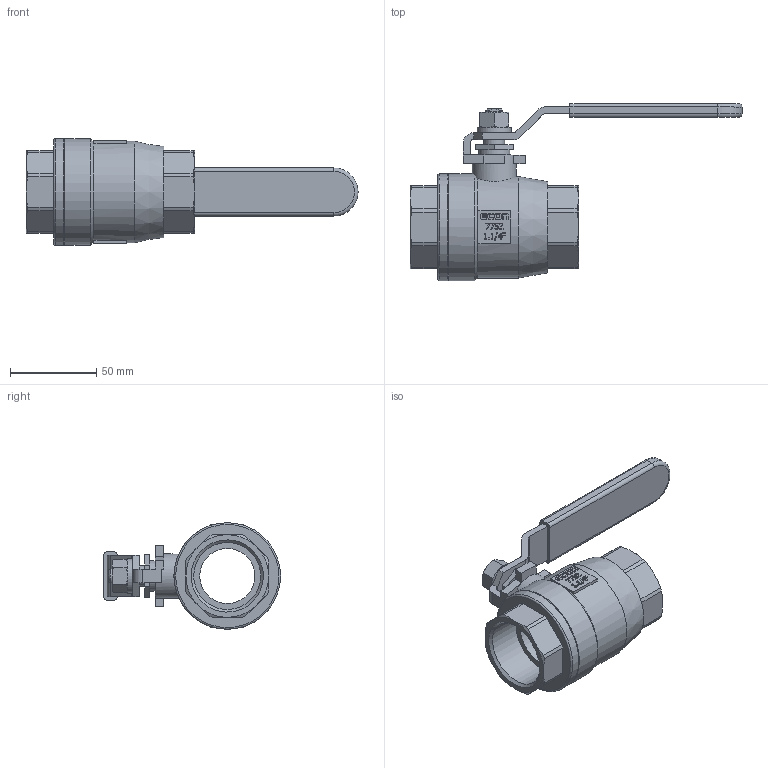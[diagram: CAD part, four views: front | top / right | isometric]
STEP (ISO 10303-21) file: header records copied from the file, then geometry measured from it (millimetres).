
FILE_DESCRIPTION(/* description */ ('Eriks item no: 12427454'),/* implementation_level */ '2;1');
FILE_NAME(/* name */ '7752-DN32-FB-1000PSI-BSPP.stp',/* time_stamp */ '2024-02-16T16:34:35+01:00',/* author */ ('roger.thijssen'),/* organization */ (''),/* preprocessor_version */ 'ST-DEVELOPER v19.2',/* originating_system */ 'Autodesk Inventor 2024',/* authorisation */ '');
FILE_SCHEMA (('AUTOMOTIVE_DESIGN { 1 0 10303 214 3 1 1 }'));
Length unit declared in the file: millimetre
Products named in the file (1): Ball valve, 7752-DN32-FB-1000PSI-BSPP
Bounding box: 193 x 103 x 62 mm (x, y, z)
Volume: 187904.3 mm3; surface area: 45852.2 mm2
Topology: 1 solids, 1 shells, 1173 faces, 3197 edges, 2115 vertices
Faces by surface type: plane 959, bspline 91, cylinder 84, cone 36, torus 3
Full cylindrical faces by diameter (mm): 12 x1, 18 x1, 20 x1, 25.6 x1, 32 x1, 38.952 x2, 59 x1, 62 x2
Entity records: 38636 total; most frequent: CARTESIAN_POINT 8301, ORIENTED_EDGE 6394, DIRECTION 5334, EDGE_CURVE 3197, LINE 2732, VECTOR 2732, VERTEX_POINT 2115, AXIS2_PLACEMENT_3D 1301
